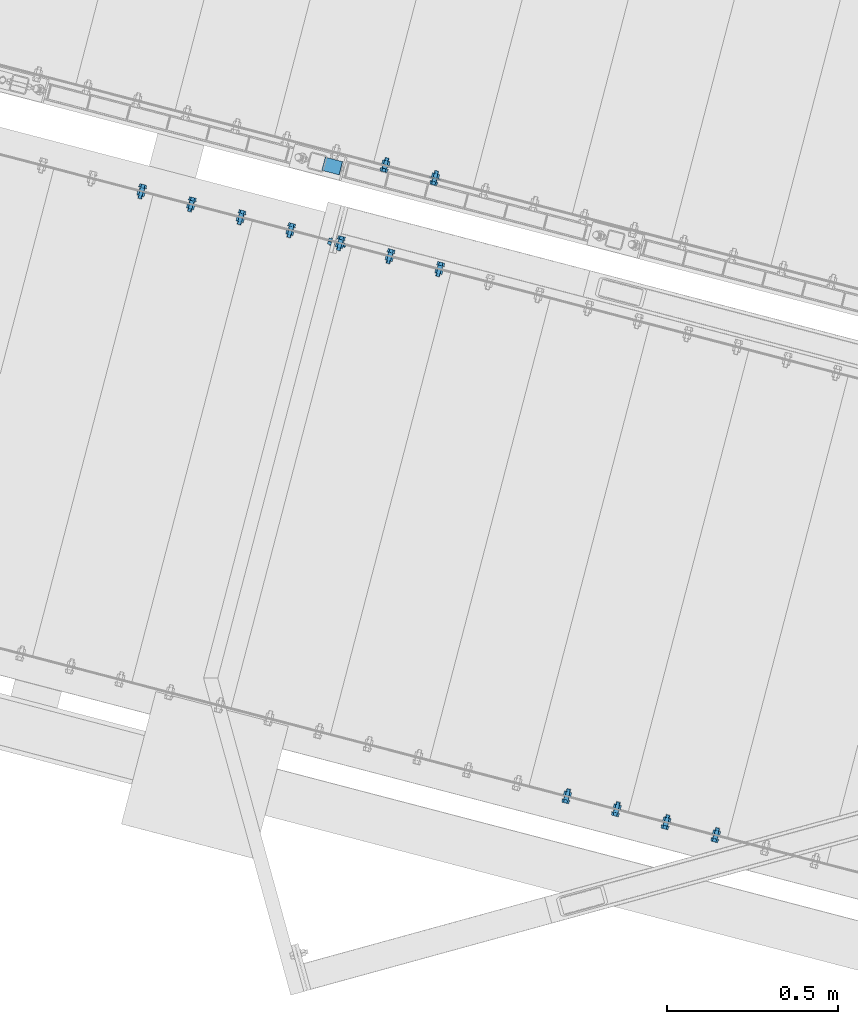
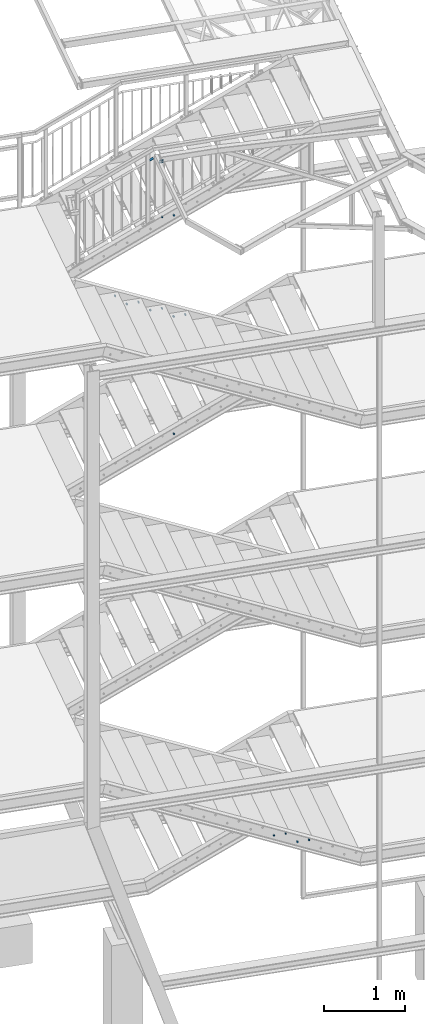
# One storey, part 138 of 169: 15 mechanical fasteners, 1 discrete accessory, 10 elements without a shape of their own.
"""IFC2X3 building model written with IfcOpenShell, lengths in millimetres."""

from ifc_helpers import new_model, si_unit, frame, frame_2d, origin_with_axes, origin_2d_with_axis, place, context, subcontext, project, spatial, polyline, circle_curve, parameter, trimmed, segment, composite_curve, rectangle, circle, outline, extrude, clip, halfspace, source, transform, mapped, material, type_object, element, aggregate, save


model = new_model("IFC2X3")

# Units and contexts
model_context = context("Model", 3, precision=1e-05, world=origin_with_axes())
body_context = subcontext(model_context, "Body", "Model", "MODEL_VIEW")
ifc_project = project(units=[si_unit("LENGTHUNIT", "METRE", prefix="MILLI"), si_unit("AREAUNIT", "SQUARE_METRE"), si_unit("VOLUMEUNIT", "CUBIC_METRE"), si_unit("MASSUNIT", "GRAM", prefix="KILO"), si_unit("TIMEUNIT", "SECOND"), si_unit("PLANEANGLEUNIT", "RADIAN"), si_unit("SOLIDANGLEUNIT", "STERADIAN"), si_unit("THERMODYNAMICTEMPERATUREUNIT", "DEGREE_CELSIUS"), si_unit("LUMINOUSINTENSITYUNIT", "LUMEN")], contexts=[model_context])

# Site, building, storey
site_placement = place(None, origin_with_axes())
site = spatial("IfcSite", under=ifc_project, at=site_placement, Name="Undefined", CompositionType="ELEMENT")
building_placement = place(site_placement, origin_with_axes())
building = spatial("IfcBuilding", under=site, at=building_placement, Name="Undefined", CompositionType="ELEMENT")
storey_placement = place(building_placement, origin_with_axes())
storey = spatial("IfcBuildingStorey", under=building, at=storey_placement, Name="Undefined", CompositionType="ELEMENT", Elevation=0.0)

# Assembly, discrete accessory
assembly_1_placement = place(storey_placement, origin_with_axes())
assembly_1 = element("IfcElementAssembly", 1, at=assembly_1_placement, inside=storey, Name="Steel Assembly", AssemblyPlace="NOTDEFINED", PredefinedType="RIGID_FRAME")
ifc_material_1 = material(Name="STEEL/S235")
discrete_accessory_type_1 = type_object("IfcDiscreteAccessoryType", Name="PORĘCZ")
discrete_accessory_placement = place(assembly_1_placement, frame((-26824.2944533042, 7082.82962751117, 13875.3924267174), z_axis=(-0.252628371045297, -0.967563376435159, 0.000136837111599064), x_axis=(-0.8654304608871, 0.225898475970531, -0.447213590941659)))
discrete_accessory = element("IfcDiscreteAccessory", 2, at=discrete_accessory_placement, type_object=discrete_accessory_type_1, material=ifc_material_1, Name="PORĘCZ", ObjectType="BL40*3", context=body_context, shape_type="Clipping", body=[
    clip(extrude(rectangle(XDim=3.0, YDim=40.0, at=origin_2d_with_axis()), frame((92.0000000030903, 0.0, 1.79883451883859e-13), z_axis=(-1.0, -3.46944695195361e-18, -1.38777878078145e-17), x_axis=(1.73472347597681e-18, -1.0, 0.0)), (0.0, 0.0, 1.0), 77.9), halfspace(frame((33.6238353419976, -1.50000001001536, -5.17258669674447e-07), z_axis=(0.973248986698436, -0.229752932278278, -2.43848151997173e-10), x_axis=(0.0, 0.0, 1.0)), True)),
])
aggregate(assembly_1, [discrete_accessory])

# Assembly, mechanical fastener
assembly_2_placement = place(storey_placement, origin_with_axes())
assembly_2 = element("IfcElementAssembly", 3, at=assembly_2_placement, inside=storey, Name="Steel Assembly", AssemblyPlace="NOTDEFINED", PredefinedType="RIGID_FRAME")
ifc_material_2 = material(Name="Undefined")
discrete_accessory_type_2 = type_object("IfcDiscreteAccessoryType", Name="Bolt assembly")
shared_shape_1 = source(origin_with_axes(), body_context, "Body", "SweptSolid", [
    extrude(circle(Radius=7.5, at=origin_2d_with_axis()), frame((0.0, -10.3999999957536, 0.0), z_axis=(0.0, 1.0, 0.0), x_axis=(1.0, 0.0, 0.0)), (0.0, 0.0, 1.0), 10.0),
    extrude(outline(composite_curve([segment(polyline([(7.5, 7.5), (7.5, -7.5)]), True, "CONTINUOUS"), segment(trimmed(circle_curve(frame_2d((0.0, -7.5), x_axis=(1.0, 0.0)), 7.5), [parameter(0.0)], [parameter(3.14159265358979)], False, "PARAMETER"), True, "CONTINUOUS"), segment(polyline([(-7.5, -7.5), (-7.5, 7.5)]), True, "CONTINUOUS"), segment(trimmed(circle_curve(frame_2d((0.0, 7.5), x_axis=(-1.0, 0.0)), 7.5), [parameter(0.0)], [parameter(3.14159265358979)], False, "PARAMETER"), True, "DISCONTINUOUS")], self_intersect=False)), frame((0.0, 0.400000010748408, 0.0), z_axis=(0.0, 1.0, 0.0), x_axis=(1.0, 0.0, 0.0)), (0.0, 0.0, 1.0), 10.1),
    extrude(outline(polyline([(10.39230484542, 0.0), (5.19615242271, 9.00000000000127), (-5.19615242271, 9.00000000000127), (-10.39230484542, 0.0), (-5.19615242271, -9.00000000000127), (5.19615242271, -9.00000000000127), (10.39230484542, 0.0)])), frame((0.0, -20.9999999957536, 0.0), z_axis=(0.0, 1.0, 0.0), x_axis=(1.0, 0.0, 0.0)), (0.0, 0.0, 1.0), 7.5),
    extrude(circle(Radius=6.0, at=origin_2d_with_axis()), frame((0.0, -13.4999999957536, 0.0), z_axis=(0.0, 1.0, 0.0), x_axis=(1.0, 0.0, 0.0)), (0.0, 0.0, 1.0), 45.0),
    extrude(circle(Radius=12.0, at=origin_2d_with_axis()), frame((0.0, -13.4999999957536, 0.0), z_axis=(0.0, 1.0, 0.0), x_axis=(1.0, 0.0, 0.0)), (0.0, 0.0, 1.0), 3.0),
    extrude(circle(Radius=12.0, at=origin_2d_with_axis()), frame((0.0, 10.500000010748, 0.0), z_axis=(0.0, 1.0, 0.0), x_axis=(1.0, 0.0, 0.0)), (0.0, 0.0, 1.0), 3.0),
    extrude(outline(polyline([(10.96965511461, 0.0), (5.484827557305, 9.50000000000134), (-5.484827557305, 9.50000000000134), (-10.96965511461, 0.0), (-5.484827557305, -9.50000000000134), (5.484827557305, -9.50000000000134), (10.96965511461, 0.0)])), frame((0.0, 13.500000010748, 0.0), z_axis=(0.0, 1.0, 0.0), x_axis=(1.0, 0.0, 0.0)), (0.0, 0.0, 1.0), 10.0),
])
mechanical_fastener_1_placement = place(assembly_2_placement, frame((-26852.8850721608, 6940.45035570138, 13989.0780480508), z_axis=(-0.252628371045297, -0.967563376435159, 0.000136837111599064), x_axis=(8.00909999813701e-05, -0.000162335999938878, -0.999999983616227)))
mechanical_fastener_1 = element("IfcMechanicalFastener", 4, at=mechanical_fastener_1_placement, type_object=discrete_accessory_type_2, material=ifc_material_2, Name="Bolt assembly", NominalDiameter=12.0, NominalLength=45.0, context=body_context, shape_type="MappedRepresentation", body=[
    mapped(shared_shape_1, transform((25.0000000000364, -5.45696821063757e-11, 70.0000000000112))),
    mapped(shared_shape_1, transform((55.0000000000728, -7.27595761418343e-11, 70.0000000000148))),
])
aggregate(assembly_2, [mechanical_fastener_1])

assembly_3_placement = place(storey_placement, origin_with_axes())
assembly_3 = element("IfcElementAssembly", 5, at=assembly_3_placement, inside=storey, Name="Steel Assembly", AssemblyPlace="NOTDEFINED", PredefinedType="RIGID_FRAME")
shared_shape_2 = source(origin_with_axes(), body_context, "Body", "SweptSolid", [
    extrude(circle(Radius=7.5, at=origin_2d_with_axis()), frame((0.0, -8.39999975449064, 0.0), z_axis=(0.0, 1.0, 0.0), x_axis=(1.0, 0.0, 0.0)), (0.0, 0.0, 1.0), 8.5),
    extrude(circle(Radius=7.5, at=origin_2d_with_axis()), frame((0.0, -0.100000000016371, 0.0), z_axis=(0.0, 1.0, 0.0), x_axis=(1.0, 0.0, 0.0)), (0.0, 0.0, 1.0), 3.1),
    extrude(outline(polyline([(10.39230484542, 0.0), (5.19615242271, 9.00000000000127), (-5.19615242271, 9.00000000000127), (-10.39230484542, 0.0), (-5.19615242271, -9.00000000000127), (5.19615242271, -9.00000000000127), (10.39230484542, 0.0)])), frame((0.0, -18.4999993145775, 0.0), z_axis=(0.0, 1.0, 0.0), x_axis=(1.0, 0.0, 0.0)), (0.0, 0.0, 1.0), 7.5),
    extrude(circle(Radius=6.0, at=origin_2d_with_axis()), frame((0.0, -10.9999999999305, 0.0), z_axis=(0.0, 1.0, 0.0), x_axis=(1.0, 0.0, 0.0)), (0.0, 0.0, 1.0), 35.0),
    extrude(circle(Radius=12.0, at=origin_2d_with_axis()), frame((0.0, -10.9999999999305, 0.0), z_axis=(0.0, 1.0, 0.0), x_axis=(1.0, 0.0, 0.0)), (0.0, 0.0, 1.0), 2.5),
    extrude(circle(Radius=12.0, at=origin_2d_with_axis()), frame((0.0, 2.99999999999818, 0.0), z_axis=(0.0, 1.0, 0.0), x_axis=(1.0, 0.0, 0.0)), (0.0, 0.0, 1.0), 2.5),
    extrude(outline(polyline([(10.96965511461, 0.0), (5.484827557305, 9.50000000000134), (-5.484827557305, 9.50000000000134), (-10.96965511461, 0.0), (-5.484827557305, -9.50000000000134), (5.484827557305, -9.50000000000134), (10.96965511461, 0.0)])), frame((0.0, 5.50000000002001, 0.0), z_axis=(0.0, 1.0, 0.0), x_axis=(1.0, 0.0, 0.0)), (0.0, 0.0, 1.0), 10.0),
])
mechanical_fastener_2_placement = place(assembly_3_placement, frame((-26468.0640397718, 7031.05432647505, 12950.0957858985), z_axis=(-2.54700353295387e-10, 0.0, -1.0), x_axis=(-0.967580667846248, 0.252562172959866, 0.0)))
mechanical_fastener_2 = element("IfcMechanicalFastener", 6, at=mechanical_fastener_2_placement, type_object=discrete_accessory_type_2, material=ifc_material_2, Name="Bolt assembly", NominalDiameter=12.0, NominalLength=35.0, context=body_context, shape_type="MappedRepresentation", body=[
    mapped(shared_shape_2, transform((264.999998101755, 3.26144800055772e-09, 24.9999997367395))),
])

assembly_4_placement = place(storey_placement, origin_with_axes())
assembly_4 = element("IfcElementAssembly", 7, at=assembly_4_placement, inside=storey, Name="Steel Assembly", AssemblyPlace="NOTDEFINED", PredefinedType="RIGID_FRAME")
mechanical_fastener_3_placement = place(assembly_4_placement, frame((-27692.3283385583, 7092.19838988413, 12050.3215824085), z_axis=(-2.54700353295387e-10, 0.0, -1.0), x_axis=(0.96754609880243, -0.252694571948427, 0.0)))
mechanical_fastener_3 = element("IfcMechanicalFastener", 8, at=mechanical_fastener_3_placement, type_object=discrete_accessory_type_2, material=ifc_material_2, Name="Bolt assembly", NominalDiameter=12.0, NominalLength=35.0, context=body_context, shape_type="MappedRepresentation", body=[
    mapped(shared_shape_2, transform((264.999998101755, 3.26144800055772e-09, 24.9999997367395))),
])
aggregate(assembly_4, [mechanical_fastener_3])

assembly_5_placement = place(storey_placement, origin_with_axes())
assembly_5 = element("IfcElementAssembly", 9, at=assembly_5_placement, inside=storey, Name="Steel Assembly", AssemblyPlace="NOTDEFINED", PredefinedType="RIGID_FRAME")
mechanical_fastener_4_placement = place(assembly_5_placement, frame((-27402.064505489, 7016.39001753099, 11900.3215824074), z_axis=(-2.54700353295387e-10, 0.0, -1.0), x_axis=(0.96754609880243, -0.252694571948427, 0.0)))
mechanical_fastener_4 = element("IfcMechanicalFastener", 10, at=mechanical_fastener_4_placement, type_object=discrete_accessory_type_2, material=ifc_material_2, Name="Bolt assembly", NominalDiameter=12.0, NominalLength=35.0, context=body_context, shape_type="MappedRepresentation", body=[
    mapped(shared_shape_2, transform((264.999998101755, 3.26144800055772e-09, 24.9999997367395))),
])

assembly_6_placement = place(storey_placement, origin_with_axes())
assembly_6 = element("IfcElementAssembly", 11, at=assembly_6_placement, inside=storey, Name="Steel Assembly", AssemblyPlace="NOTDEFINED", PredefinedType="RIGID_FRAME")
mechanical_fastener_5_placement = place(assembly_6_placement, frame((-27111.8006724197, 6940.58164517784, 11750.3215824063), z_axis=(-2.54700353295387e-10, 0.0, -1.0), x_axis=(0.96754609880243, -0.252694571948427, 0.0)))
mechanical_fastener_5 = element("IfcMechanicalFastener", 12, at=mechanical_fastener_5_placement, type_object=discrete_accessory_type_2, material=ifc_material_2, Name="Bolt assembly", NominalDiameter=12.0, NominalLength=35.0, context=body_context, shape_type="MappedRepresentation", body=[
    mapped(shared_shape_2, transform((264.999998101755, 3.26144800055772e-09, 24.9999997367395))),
])

assembly_7_placement = place(storey_placement, origin_with_axes())
assembly_7 = element("IfcElementAssembly", 13, at=assembly_7_placement, inside=storey, Name="Steel Assembly", AssemblyPlace="NOTDEFINED", PredefinedType="RIGID_FRAME")
mechanical_fastener_6_placement = place(assembly_7_placement, frame((-26821.5368393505, 6864.77327282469, 11600.3215824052), z_axis=(-2.54700353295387e-10, 0.0, -1.0), x_axis=(0.96754609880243, -0.252694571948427, 0.0)))
mechanical_fastener_6 = element("IfcMechanicalFastener", 14, at=mechanical_fastener_6_placement, type_object=discrete_accessory_type_2, material=ifc_material_2, Name="Bolt assembly", NominalDiameter=12.0, NominalLength=35.0, context=body_context, shape_type="MappedRepresentation", body=[
    mapped(shared_shape_2, transform((264.999998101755, 3.26144800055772e-09, 24.9999997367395))),
])

assembly_8_placement = place(storey_placement, origin_with_axes())
assembly_8 = element("IfcElementAssembly", 15, at=assembly_8_placement, inside=storey, Name="Steel Assembly", AssemblyPlace="NOTDEFINED", PredefinedType="RIGID_FRAME")
mechanical_fastener_7_placement = place(assembly_8_placement, frame((-26014.4820652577, 5206.10141672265, 4550.32164420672), z_axis=(-2.54700353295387e-10, 0.0, -1.0), x_axis=(-0.967546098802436, 0.252694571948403, 0.0)))
mechanical_fastener_7 = element("IfcMechanicalFastener", 16, at=mechanical_fastener_7_placement, type_object=discrete_accessory_type_2, material=ifc_material_2, Name="Bolt assembly", NominalDiameter=12.0, NominalLength=35.0, context=body_context, shape_type="MappedRepresentation", body=[
    mapped(shared_shape_2, transform((35.0000000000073, -1.23691279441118e-10, 25.0))),
])

assembly_9_placement = place(storey_placement, origin_with_axes())
assembly_9 = element("IfcElementAssembly", 17, at=assembly_9_placement, inside=storey, Name="Steel Assembly", AssemblyPlace="NOTDEFINED", PredefinedType="RIGID_FRAME")
mechanical_fastener_8_placement = place(assembly_9_placement, frame((-25724.2182321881, 5130.29304437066, 4400.32164420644), z_axis=(-2.54700353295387e-10, 0.0, -1.0), x_axis=(-0.967546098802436, 0.252694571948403, 0.0)))
mechanical_fastener_8 = element("IfcMechanicalFastener", 18, at=mechanical_fastener_8_placement, type_object=discrete_accessory_type_2, material=ifc_material_2, Name="Bolt assembly", NominalDiameter=12.0, NominalLength=35.0, context=body_context, shape_type="MappedRepresentation", body=[
    mapped(shared_shape_2, transform((35.0000000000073, -1.23691279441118e-10, 25.0))),
])

# Mechanical fastener
shared_shape_3 = source(origin_with_axes(), body_context, "Body", "SweptSolid", [
    extrude(circle(Radius=7.5, at=origin_2d_with_axis()), frame((0.0, -8.39999975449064, 0.0), z_axis=(0.0, 1.0, 0.0), x_axis=(1.0, 0.0, 0.0)), (0.0, 0.0, 1.0), 8.5),
    extrude(outline(composite_curve([segment(polyline([(-10.0, 7.5), (10.0, 7.5)]), True, "CONTINUOUS"), segment(trimmed(circle_curve(frame_2d((10.0, 0.0), x_axis=(0.0, 1.0)), 7.5), [parameter(0.0)], [parameter(3.14159265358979)], False, "PARAMETER"), True, "CONTINUOUS"), segment(polyline([(10.0, -7.5), (-10.0, -7.5)]), True, "CONTINUOUS"), segment(trimmed(circle_curve(frame_2d((-10.0, 0.0), x_axis=(0.0, -1.0)), 7.5), [parameter(0.0)], [parameter(3.14159265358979)], False, "PARAMETER"), True, "DISCONTINUOUS")], self_intersect=False)), frame((0.0, -0.100000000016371, 0.0), z_axis=(0.0, 1.0, 0.0), x_axis=(1.0, 0.0, 0.0)), (0.0, 0.0, 1.0), 3.1),
    extrude(outline(polyline([(10.39230484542, 0.0), (5.19615242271, 9.00000000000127), (-5.19615242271, 9.00000000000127), (-10.39230484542, 0.0), (-5.19615242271, -9.00000000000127), (5.19615242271, -9.00000000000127), (10.39230484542, 0.0)])), frame((0.0, -18.4999993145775, 0.0), z_axis=(0.0, 1.0, 0.0), x_axis=(1.0, 0.0, 0.0)), (0.0, 0.0, 1.0), 7.5),
    extrude(circle(Radius=6.0, at=origin_2d_with_axis()), frame((0.0, -10.9999999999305, 0.0), z_axis=(0.0, 1.0, 0.0), x_axis=(1.0, 0.0, 0.0)), (0.0, 0.0, 1.0), 35.0),
    extrude(circle(Radius=12.0, at=origin_2d_with_axis()), frame((0.0, -10.9999999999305, 0.0), z_axis=(0.0, 1.0, 0.0), x_axis=(1.0, 0.0, 0.0)), (0.0, 0.0, 1.0), 2.5),
    extrude(circle(Radius=12.0, at=origin_2d_with_axis()), frame((0.0, 2.99999999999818, 0.0), z_axis=(0.0, 1.0, 0.0), x_axis=(1.0, 0.0, 0.0)), (0.0, 0.0, 1.0), 2.5),
    extrude(outline(polyline([(10.96965511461, 0.0), (5.484827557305, 9.50000000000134), (-5.484827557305, 9.50000000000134), (-10.96965511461, 0.0), (-5.484827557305, -9.50000000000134), (5.484827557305, -9.50000000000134), (10.96965511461, 0.0)])), frame((0.0, 5.50000000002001, 0.0), z_axis=(0.0, 1.0, 0.0), x_axis=(1.0, 0.0, 0.0)), (0.0, 0.0, 1.0), 10.0),
])
mechanical_fastener_9_placement = place(assembly_3_placement, frame((-26468.0640397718, 7031.05432647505, 12950.0957858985), z_axis=(-2.54700353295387e-10, 0.0, -1.0), x_axis=(-0.967580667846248, 0.252562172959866, 0.0)))
mechanical_fastener_9 = element("IfcMechanicalFastener", 19, at=mechanical_fastener_9_placement, type_object=discrete_accessory_type_2, material=ifc_material_2, Name="Bolt assembly", NominalDiameter=12.0, NominalLength=35.0, context=body_context, shape_type="MappedRepresentation", body=[
    mapped(shared_shape_3, transform((115.000000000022, -4.04725142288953e-10, 25.0))),
])

aggregate(assembly_3, [mechanical_fastener_9, mechanical_fastener_2])

shared_shape_4 = source(origin_with_axes(), body_context, "Body", "SweptSolid", [
    extrude(circle(Radius=7.5, at=origin_2d_with_axis()), frame((0.0, -8.39999975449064, 0.0), z_axis=(0.0, 1.0, 0.0), x_axis=(1.0, 0.0, 0.0)), (0.0, 0.0, 1.0), 8.5),
    extrude(outline(composite_curve([segment(polyline([(-10.0, 7.5), (10.0, 7.5)]), True, "CONTINUOUS"), segment(trimmed(circle_curve(frame_2d((10.0, 0.0), x_axis=(0.0, 1.0)), 7.5), [parameter(0.0)], [parameter(3.14159265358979)], False, "PARAMETER"), True, "CONTINUOUS"), segment(polyline([(10.0, -7.5), (-10.0, -7.5)]), True, "CONTINUOUS"), segment(trimmed(circle_curve(frame_2d((-10.0, 0.0), x_axis=(0.0, -1.0)), 7.5), [parameter(0.0)], [parameter(3.14159265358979)], False, "PARAMETER"), True, "DISCONTINUOUS")], self_intersect=False)), frame((0.0, -0.100000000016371, 0.0), z_axis=(0.0, 1.0, 0.0), x_axis=(1.0, 0.0, 0.0)), (0.0, 0.0, 1.0), 3.1),
    extrude(outline(polyline([(10.39230484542, 0.0), (5.19615242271, 9.00000000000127), (-5.19615242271, 9.00000000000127), (-10.39230484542, 0.0), (-5.19615242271, -9.00000000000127), (5.19615242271, -9.00000000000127), (10.39230484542, 0.0)])), frame((0.0, -18.4999993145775, 0.0), z_axis=(0.0, 1.0, 0.0), x_axis=(1.0, 0.0, 0.0)), (0.0, 0.0, 1.0), 7.5),
    extrude(circle(Radius=6.0, at=origin_2d_with_axis()), frame((0.0, -10.9999999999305, 0.0), z_axis=(0.0, 1.0, 0.0), x_axis=(1.0, 0.0, 0.0)), (0.0, 0.0, 1.0), 35.0),
    extrude(circle(Radius=12.0, at=origin_2d_with_axis()), frame((0.0, -10.9999999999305, 0.0), z_axis=(0.0, 1.0, 0.0), x_axis=(1.0, 0.0, 0.0)), (0.0, 0.0, 1.0), 2.5),
    extrude(circle(Radius=12.0, at=origin_2d_with_axis()), frame((0.0, 2.99999999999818, 0.0), z_axis=(0.0, 1.0, 0.0), x_axis=(1.0, 0.0, 0.0)), (0.0, 0.0, 1.0), 2.5),
    extrude(outline(polyline([(10.96965511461, 0.0), (5.484827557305, 9.50000000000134), (-5.484827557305, 9.50000000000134), (-10.96965511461, 0.0), (-5.484827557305, -9.50000000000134), (5.484827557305, -9.50000000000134), (10.96965511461, 0.0)])), frame((0.0, 5.50000000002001, 0.0), z_axis=(0.0, 1.0, 0.0), x_axis=(1.0, 0.0, 0.0)), (0.0, 0.0, 1.0), 10.0),
])
mechanical_fastener_10_placement = place(assembly_5_placement, frame((-27402.064505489, 7016.39001753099, 11900.3215824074), z_axis=(-2.54700353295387e-10, 0.0, -1.0), x_axis=(0.96754609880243, -0.252694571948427, 0.0)))
mechanical_fastener_10 = element("IfcMechanicalFastener", 20, at=mechanical_fastener_10_placement, type_object=discrete_accessory_type_2, material=ifc_material_2, Name="Bolt assembly", NominalDiameter=12.0, NominalLength=35.0, context=body_context, shape_type="MappedRepresentation", body=[
    mapped(shared_shape_4, transform((115.000000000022, -4.04725142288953e-10, 25.0))),
])

aggregate(assembly_5, [mechanical_fastener_10, mechanical_fastener_4])

shared_shape_5 = source(origin_with_axes(), body_context, "Body", "SweptSolid", [
    extrude(circle(Radius=7.5, at=origin_2d_with_axis()), frame((0.0, -8.39999975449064, 0.0), z_axis=(0.0, 1.0, 0.0), x_axis=(1.0, 0.0, 0.0)), (0.0, 0.0, 1.0), 8.5),
    extrude(outline(composite_curve([segment(polyline([(-10.0, 7.5), (10.0, 7.5)]), True, "CONTINUOUS"), segment(trimmed(circle_curve(frame_2d((10.0, 0.0), x_axis=(0.0, 1.0)), 7.5), [parameter(0.0)], [parameter(3.14159265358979)], False, "PARAMETER"), True, "CONTINUOUS"), segment(polyline([(10.0, -7.5), (-10.0, -7.5)]), True, "CONTINUOUS"), segment(trimmed(circle_curve(frame_2d((-10.0, 0.0), x_axis=(0.0, -1.0)), 7.5), [parameter(0.0)], [parameter(3.14159265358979)], False, "PARAMETER"), True, "DISCONTINUOUS")], self_intersect=False)), frame((0.0, -0.100000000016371, 0.0), z_axis=(0.0, 1.0, 0.0), x_axis=(1.0, 0.0, 0.0)), (0.0, 0.0, 1.0), 3.1),
    extrude(outline(polyline([(10.39230484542, 0.0), (5.19615242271, 9.00000000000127), (-5.19615242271, 9.00000000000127), (-10.39230484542, 0.0), (-5.19615242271, -9.00000000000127), (5.19615242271, -9.00000000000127), (10.39230484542, 0.0)])), frame((0.0, -18.4999993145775, 0.0), z_axis=(0.0, 1.0, 0.0), x_axis=(1.0, 0.0, 0.0)), (0.0, 0.0, 1.0), 7.5),
    extrude(circle(Radius=6.0, at=origin_2d_with_axis()), frame((0.0, -10.9999999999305, 0.0), z_axis=(0.0, 1.0, 0.0), x_axis=(1.0, 0.0, 0.0)), (0.0, 0.0, 1.0), 35.0),
    extrude(circle(Radius=12.0, at=origin_2d_with_axis()), frame((0.0, -10.9999999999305, 0.0), z_axis=(0.0, 1.0, 0.0), x_axis=(1.0, 0.0, 0.0)), (0.0, 0.0, 1.0), 2.5),
    extrude(circle(Radius=12.0, at=origin_2d_with_axis()), frame((0.0, 2.99999999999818, 0.0), z_axis=(0.0, 1.0, 0.0), x_axis=(1.0, 0.0, 0.0)), (0.0, 0.0, 1.0), 2.5),
    extrude(outline(polyline([(10.96965511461, 0.0), (5.484827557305, 9.50000000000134), (-5.484827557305, 9.50000000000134), (-10.96965511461, 0.0), (-5.484827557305, -9.50000000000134), (5.484827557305, -9.50000000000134), (10.96965511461, 0.0)])), frame((0.0, 5.50000000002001, 0.0), z_axis=(0.0, 1.0, 0.0), x_axis=(1.0, 0.0, 0.0)), (0.0, 0.0, 1.0), 10.0),
])
mechanical_fastener_11_placement = place(assembly_6_placement, frame((-27111.8006724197, 6940.58164517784, 11750.3215824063), z_axis=(-2.54700353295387e-10, 0.0, -1.0), x_axis=(0.96754609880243, -0.252694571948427, 0.0)))
mechanical_fastener_11 = element("IfcMechanicalFastener", 21, at=mechanical_fastener_11_placement, type_object=discrete_accessory_type_2, material=ifc_material_2, Name="Bolt assembly", NominalDiameter=12.0, NominalLength=35.0, context=body_context, shape_type="MappedRepresentation", body=[
    mapped(shared_shape_5, transform((115.000000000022, -4.04725142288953e-10, 25.0))),
])

aggregate(assembly_6, [mechanical_fastener_11, mechanical_fastener_5])

shared_shape_6 = source(origin_with_axes(), body_context, "Body", "SweptSolid", [
    extrude(circle(Radius=7.5, at=origin_2d_with_axis()), frame((0.0, -8.39999975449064, 0.0), z_axis=(0.0, 1.0, 0.0), x_axis=(1.0, 0.0, 0.0)), (0.0, 0.0, 1.0), 8.5),
    extrude(outline(composite_curve([segment(polyline([(-10.0, 7.5), (10.0, 7.5)]), True, "CONTINUOUS"), segment(trimmed(circle_curve(frame_2d((10.0, 0.0), x_axis=(0.0, 1.0)), 7.5), [parameter(0.0)], [parameter(3.14159265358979)], False, "PARAMETER"), True, "CONTINUOUS"), segment(polyline([(10.0, -7.5), (-10.0, -7.5)]), True, "CONTINUOUS"), segment(trimmed(circle_curve(frame_2d((-10.0, 0.0), x_axis=(0.0, -1.0)), 7.5), [parameter(0.0)], [parameter(3.14159265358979)], False, "PARAMETER"), True, "DISCONTINUOUS")], self_intersect=False)), frame((0.0, -0.100000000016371, 0.0), z_axis=(0.0, 1.0, 0.0), x_axis=(1.0, 0.0, 0.0)), (0.0, 0.0, 1.0), 3.1),
    extrude(outline(polyline([(10.39230484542, 0.0), (5.19615242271, 9.00000000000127), (-5.19615242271, 9.00000000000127), (-10.39230484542, 0.0), (-5.19615242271, -9.00000000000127), (5.19615242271, -9.00000000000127), (10.39230484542, 0.0)])), frame((0.0, -18.4999993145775, 0.0), z_axis=(0.0, 1.0, 0.0), x_axis=(1.0, 0.0, 0.0)), (0.0, 0.0, 1.0), 7.5),
    extrude(circle(Radius=6.0, at=origin_2d_with_axis()), frame((0.0, -10.9999999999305, 0.0), z_axis=(0.0, 1.0, 0.0), x_axis=(1.0, 0.0, 0.0)), (0.0, 0.0, 1.0), 35.0),
    extrude(circle(Radius=12.0, at=origin_2d_with_axis()), frame((0.0, -10.9999999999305, 0.0), z_axis=(0.0, 1.0, 0.0), x_axis=(1.0, 0.0, 0.0)), (0.0, 0.0, 1.0), 2.5),
    extrude(circle(Radius=12.0, at=origin_2d_with_axis()), frame((0.0, 2.99999999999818, 0.0), z_axis=(0.0, 1.0, 0.0), x_axis=(1.0, 0.0, 0.0)), (0.0, 0.0, 1.0), 2.5),
    extrude(outline(polyline([(10.96965511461, 0.0), (5.484827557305, 9.50000000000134), (-5.484827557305, 9.50000000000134), (-10.96965511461, 0.0), (-5.484827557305, -9.50000000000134), (5.484827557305, -9.50000000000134), (10.96965511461, 0.0)])), frame((0.0, 5.50000000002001, 0.0), z_axis=(0.0, 1.0, 0.0), x_axis=(1.0, 0.0, 0.0)), (0.0, 0.0, 1.0), 10.0),
])
mechanical_fastener_12_placement = place(assembly_7_placement, frame((-26821.5368393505, 6864.77327282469, 11600.3215824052), z_axis=(-2.54700353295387e-10, 0.0, -1.0), x_axis=(0.96754609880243, -0.252694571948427, 0.0)))
mechanical_fastener_12 = element("IfcMechanicalFastener", 22, at=mechanical_fastener_12_placement, type_object=discrete_accessory_type_2, material=ifc_material_2, Name="Bolt assembly", NominalDiameter=12.0, NominalLength=35.0, context=body_context, shape_type="MappedRepresentation", body=[
    mapped(shared_shape_6, transform((115.000000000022, -4.04725142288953e-10, 25.0))),
])

aggregate(assembly_7, [mechanical_fastener_12, mechanical_fastener_6])

# Assembly, mechanical fastener
assembly_10_placement = place(storey_placement, origin_with_axes())
assembly_10 = element("IfcElementAssembly", 23, at=assembly_10_placement, inside=storey, Name="Steel Assembly", AssemblyPlace="NOTDEFINED", PredefinedType="RIGID_FRAME")
shared_shape_7 = source(origin_with_axes(), body_context, "Body", "SweptSolid", [
    extrude(circle(Radius=7.5, at=origin_2d_with_axis()), frame((0.0, -8.39999975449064, 0.0), z_axis=(0.0, 1.0, 0.0), x_axis=(1.0, 0.0, 0.0)), (0.0, 0.0, 1.0), 8.5),
    extrude(outline(composite_curve([segment(polyline([(-10.0, 7.5), (10.0, 7.5)]), True, "CONTINUOUS"), segment(trimmed(circle_curve(frame_2d((10.0, 0.0), x_axis=(0.0, 1.0)), 7.5), [parameter(0.0)], [parameter(3.14159265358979)], False, "PARAMETER"), True, "CONTINUOUS"), segment(polyline([(10.0, -7.5), (-10.0, -7.5)]), True, "CONTINUOUS"), segment(trimmed(circle_curve(frame_2d((-10.0, 0.0), x_axis=(0.0, -1.0)), 7.5), [parameter(0.0)], [parameter(3.14159265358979)], False, "PARAMETER"), True, "DISCONTINUOUS")], self_intersect=False)), frame((0.0, -0.100000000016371, 0.0), z_axis=(0.0, 1.0, 0.0), x_axis=(1.0, 0.0, 0.0)), (0.0, 0.0, 1.0), 3.1),
    extrude(outline(polyline([(10.39230484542, 0.0), (5.19615242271, 9.00000000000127), (-5.19615242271, 9.00000000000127), (-10.39230484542, 0.0), (-5.19615242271, -9.00000000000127), (5.19615242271, -9.00000000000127), (10.39230484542, 0.0)])), frame((0.0, -18.4999993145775, 0.0), z_axis=(0.0, 1.0, 0.0), x_axis=(1.0, 0.0, 0.0)), (0.0, 0.0, 1.0), 7.5),
    extrude(circle(Radius=6.0, at=origin_2d_with_axis()), frame((0.0, -10.9999999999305, 0.0), z_axis=(0.0, 1.0, 0.0), x_axis=(1.0, 0.0, 0.0)), (0.0, 0.0, 1.0), 35.0),
    extrude(circle(Radius=12.0, at=origin_2d_with_axis()), frame((0.0, -10.9999999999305, 0.0), z_axis=(0.0, 1.0, 0.0), x_axis=(1.0, 0.0, 0.0)), (0.0, 0.0, 1.0), 2.5),
    extrude(circle(Radius=12.0, at=origin_2d_with_axis()), frame((0.0, 2.99999999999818, 0.0), z_axis=(0.0, 1.0, 0.0), x_axis=(1.0, 0.0, 0.0)), (0.0, 0.0, 1.0), 2.5),
    extrude(outline(polyline([(10.96965511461, 0.0), (5.484827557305, 9.50000000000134), (-5.484827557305, 9.50000000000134), (-10.96965511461, 0.0), (-5.484827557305, -9.50000000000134), (5.484827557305, -9.50000000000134), (10.96965511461, 0.0)])), frame((0.0, 5.50000000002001, 0.0), z_axis=(0.0, 1.0, 0.0), x_axis=(1.0, 0.0, 0.0)), (0.0, 0.0, 1.0), 10.0),
])
mechanical_fastener_13_placement = place(assembly_10_placement, frame((-26468.1781171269, 7030.61741151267, 9650.09581681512), z_axis=(-2.54700353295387e-10, 0.0, -1.0), x_axis=(-0.967580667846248, 0.252562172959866, 0.0)))
mechanical_fastener_13 = element("IfcMechanicalFastener", 24, at=mechanical_fastener_13_placement, type_object=discrete_accessory_type_2, material=ifc_material_2, Name="Bolt assembly", NominalDiameter=12.0, NominalLength=35.0, context=body_context, shape_type="MappedRepresentation", body=[
    mapped(shared_shape_7, transform((115.000000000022, -4.04725142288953e-10, 25.0))),
])
aggregate(assembly_10, [mechanical_fastener_13])

# Mechanical fastener
shared_shape_8 = source(origin_with_axes(), body_context, "Body", "SweptSolid", [
    extrude(circle(Radius=7.5, at=origin_2d_with_axis()), frame((0.0, -8.39999975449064, 0.0), z_axis=(0.0, 1.0, 0.0), x_axis=(1.0, 0.0, 0.0)), (0.0, 0.0, 1.0), 8.5),
    extrude(outline(composite_curve([segment(polyline([(-10.0, 7.5), (10.0, 7.5)]), True, "CONTINUOUS"), segment(trimmed(circle_curve(frame_2d((10.0, 0.0), x_axis=(0.0, 1.0)), 7.5), [parameter(0.0)], [parameter(3.14159265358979)], False, "PARAMETER"), True, "CONTINUOUS"), segment(polyline([(10.0, -7.5), (-10.0, -7.5)]), True, "CONTINUOUS"), segment(trimmed(circle_curve(frame_2d((-10.0, 0.0), x_axis=(0.0, -1.0)), 7.5), [parameter(0.0)], [parameter(3.14159265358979)], False, "PARAMETER"), True, "DISCONTINUOUS")], self_intersect=False)), frame((0.0, -0.100000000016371, 0.0), z_axis=(0.0, 1.0, 0.0), x_axis=(1.0, 0.0, 0.0)), (0.0, 0.0, 1.0), 3.1),
    extrude(outline(polyline([(10.39230484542, 0.0), (5.19615242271, 9.00000000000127), (-5.19615242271, 9.00000000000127), (-10.39230484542, 0.0), (-5.19615242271, -9.00000000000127), (5.19615242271, -9.00000000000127), (10.39230484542, 0.0)])), frame((0.0, -18.4999993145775, 0.0), z_axis=(0.0, 1.0, 0.0), x_axis=(1.0, 0.0, 0.0)), (0.0, 0.0, 1.0), 7.5),
    extrude(circle(Radius=6.0, at=origin_2d_with_axis()), frame((0.0, -10.9999999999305, 0.0), z_axis=(0.0, 1.0, 0.0), x_axis=(1.0, 0.0, 0.0)), (0.0, 0.0, 1.0), 35.0),
    extrude(circle(Radius=12.0, at=origin_2d_with_axis()), frame((0.0, -10.9999999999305, 0.0), z_axis=(0.0, 1.0, 0.0), x_axis=(1.0, 0.0, 0.0)), (0.0, 0.0, 1.0), 2.5),
    extrude(circle(Radius=12.0, at=origin_2d_with_axis()), frame((0.0, 2.99999999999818, 0.0), z_axis=(0.0, 1.0, 0.0), x_axis=(1.0, 0.0, 0.0)), (0.0, 0.0, 1.0), 2.5),
    extrude(outline(polyline([(10.96965511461, 0.0), (5.484827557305, 9.50000000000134), (-5.484827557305, 9.50000000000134), (-10.96965511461, 0.0), (-5.484827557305, -9.50000000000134), (5.484827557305, -9.50000000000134), (10.96965511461, 0.0)])), frame((0.0, 5.50000000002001, 0.0), z_axis=(0.0, 1.0, 0.0), x_axis=(1.0, 0.0, 0.0)), (0.0, 0.0, 1.0), 10.0),
])
mechanical_fastener_14_placement = place(assembly_8_placement, frame((-26014.4820652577, 5206.10141672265, 4550.32164420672), z_axis=(-2.54700353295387e-10, 0.0, -1.0), x_axis=(-0.967546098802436, 0.252694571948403, 0.0)))
mechanical_fastener_14 = element("IfcMechanicalFastener", 25, at=mechanical_fastener_14_placement, type_object=discrete_accessory_type_2, material=ifc_material_2, Name="Bolt assembly", NominalDiameter=12.0, NominalLength=35.0, context=body_context, shape_type="MappedRepresentation", body=[
    mapped(shared_shape_8, transform((185.00000000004, -6.51198206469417e-10, 25.0))),
])

aggregate(assembly_8, [mechanical_fastener_14, mechanical_fastener_7])

shared_shape_9 = source(origin_with_axes(), body_context, "Body", "SweptSolid", [
    extrude(circle(Radius=7.5, at=origin_2d_with_axis()), frame((0.0, -8.39999975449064, 0.0), z_axis=(0.0, 1.0, 0.0), x_axis=(1.0, 0.0, 0.0)), (0.0, 0.0, 1.0), 8.5),
    extrude(outline(composite_curve([segment(polyline([(-10.0, 7.5), (10.0, 7.5)]), True, "CONTINUOUS"), segment(trimmed(circle_curve(frame_2d((10.0, 0.0), x_axis=(0.0, 1.0)), 7.5), [parameter(0.0)], [parameter(3.14159265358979)], False, "PARAMETER"), True, "CONTINUOUS"), segment(polyline([(10.0, -7.5), (-10.0, -7.5)]), True, "CONTINUOUS"), segment(trimmed(circle_curve(frame_2d((-10.0, 0.0), x_axis=(0.0, -1.0)), 7.5), [parameter(0.0)], [parameter(3.14159265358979)], False, "PARAMETER"), True, "DISCONTINUOUS")], self_intersect=False)), frame((0.0, -0.100000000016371, 0.0), z_axis=(0.0, 1.0, 0.0), x_axis=(1.0, 0.0, 0.0)), (0.0, 0.0, 1.0), 3.1),
    extrude(outline(polyline([(10.39230484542, 0.0), (5.19615242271, 9.00000000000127), (-5.19615242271, 9.00000000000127), (-10.39230484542, 0.0), (-5.19615242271, -9.00000000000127), (5.19615242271, -9.00000000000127), (10.39230484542, 0.0)])), frame((0.0, -18.4999993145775, 0.0), z_axis=(0.0, 1.0, 0.0), x_axis=(1.0, 0.0, 0.0)), (0.0, 0.0, 1.0), 7.5),
    extrude(circle(Radius=6.0, at=origin_2d_with_axis()), frame((0.0, -10.9999999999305, 0.0), z_axis=(0.0, 1.0, 0.0), x_axis=(1.0, 0.0, 0.0)), (0.0, 0.0, 1.0), 35.0),
    extrude(circle(Radius=12.0, at=origin_2d_with_axis()), frame((0.0, -10.9999999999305, 0.0), z_axis=(0.0, 1.0, 0.0), x_axis=(1.0, 0.0, 0.0)), (0.0, 0.0, 1.0), 2.5),
    extrude(circle(Radius=12.0, at=origin_2d_with_axis()), frame((0.0, 2.99999999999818, 0.0), z_axis=(0.0, 1.0, 0.0), x_axis=(1.0, 0.0, 0.0)), (0.0, 0.0, 1.0), 2.5),
    extrude(outline(polyline([(10.96965511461, 0.0), (5.484827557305, 9.50000000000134), (-5.484827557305, 9.50000000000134), (-10.96965511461, 0.0), (-5.484827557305, -9.50000000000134), (5.484827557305, -9.50000000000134), (10.96965511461, 0.0)])), frame((0.0, 5.50000000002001, 0.0), z_axis=(0.0, 1.0, 0.0), x_axis=(1.0, 0.0, 0.0)), (0.0, 0.0, 1.0), 10.0),
])
mechanical_fastener_15_placement = place(assembly_9_placement, frame((-25724.2182321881, 5130.29304437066, 4400.32164420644), z_axis=(-2.54700353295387e-10, 0.0, -1.0), x_axis=(-0.967546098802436, 0.252694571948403, 0.0)))
mechanical_fastener_15 = element("IfcMechanicalFastener", 26, at=mechanical_fastener_15_placement, type_object=discrete_accessory_type_2, material=ifc_material_2, Name="Bolt assembly", NominalDiameter=12.0, NominalLength=35.0, context=body_context, shape_type="MappedRepresentation", body=[
    mapped(shared_shape_9, transform((185.00000000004, -6.51198206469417e-10, 25.0))),
])

aggregate(assembly_9, [mechanical_fastener_15, mechanical_fastener_8])

save(model, "model.ifc")
